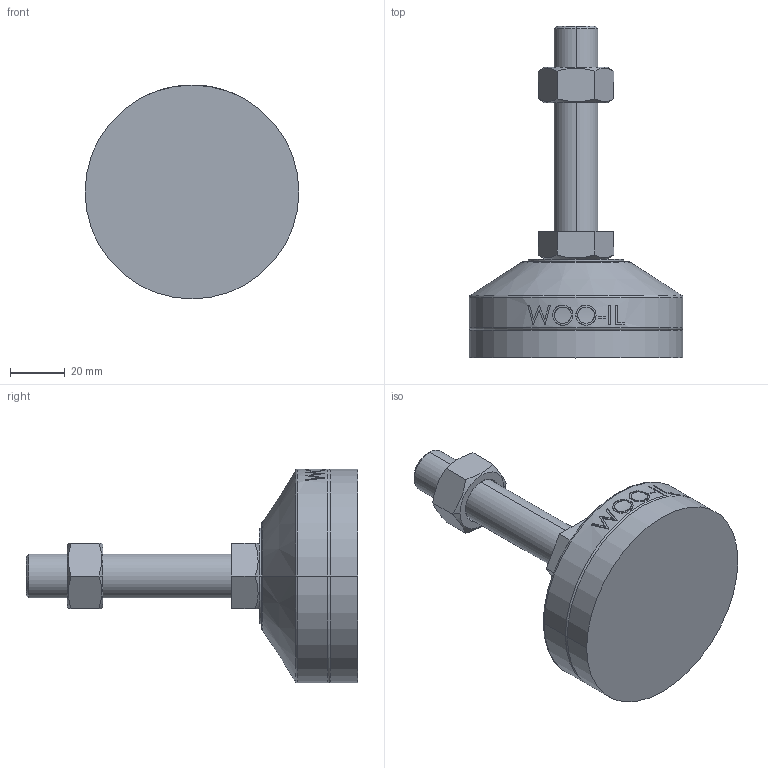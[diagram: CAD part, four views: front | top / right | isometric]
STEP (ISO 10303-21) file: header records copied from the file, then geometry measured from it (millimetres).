
FILE_DESCRIPTION (( 'STEP AP214' ), '1' );
FILE_NAME ('MFR78-M16-75.step', '2021-01-13T05:38:16', ( '' ), ( '' ), 'SwSTEP 2.0', 'SolidWorks 2019', '' );
FILE_SCHEMA (( 'AUTOMOTIVE_DESIGN' ));
Length unit declared in the file: millimetre
Products named in the file (2): MFR78-M16-75
Bounding box: 78 x 121 x 78 mm (x, y, z)
Volume: 167020.2 mm3; surface area: 33043 mm2
Topology: 4 solids, 4 shells, 103 faces, 235 edges, 150 vertices
Faces by surface type: plane 49, cylinder 18, bspline 16, cone 14, torus 6
Entity records: 4435 total; most frequent: CARTESIAN_POINT 2162, ORIENTED_EDGE 470, DIRECTION 417, EDGE_CURVE 235, AXIS2_PLACEMENT_3D 159, VERTEX_POINT 150, EDGE_LOOP 115, ADVANCED_FACE 103
